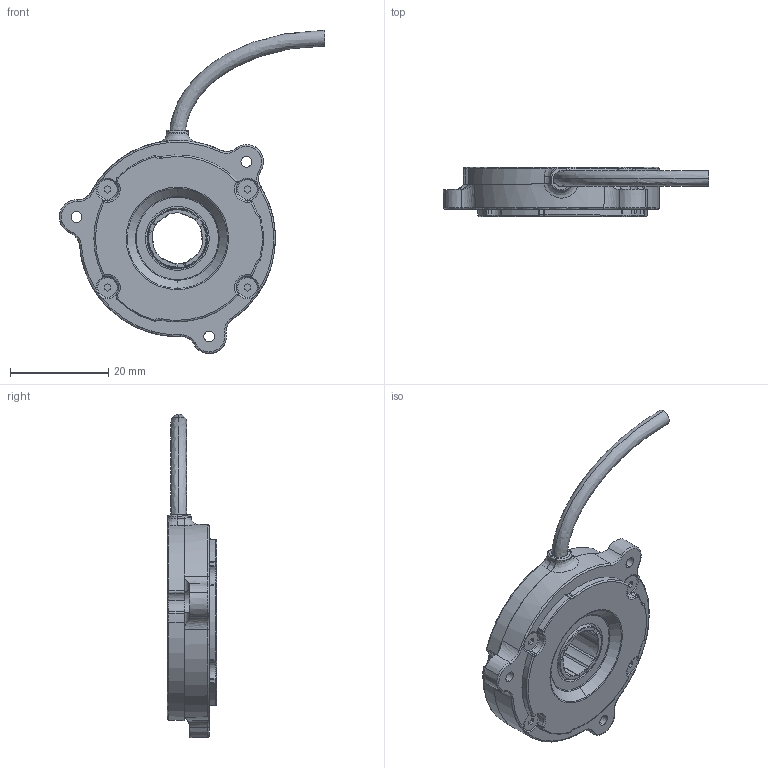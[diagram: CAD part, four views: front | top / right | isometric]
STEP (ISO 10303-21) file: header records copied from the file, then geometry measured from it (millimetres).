
FILE_DESCRIPTION (( 'STEP AP214' ), '1' );
FILE_NAME ('DS-40.STEP', '2025-03-24T08:59:46', ( '' ), ( '' ), 'SwSTEP 2.0', 'SolidWorks 2022', '' );
FILE_SCHEMA (( 'AUTOMOTIVE_DESIGN' ));
Length unit declared in the file: millimetre
Products named in the file (7): DS-40-QR Cable; DS-40-QR Core_Envelope; DS-40; MP-03740; MP-03741_79914   2  05; MP-03739; MP-03620
Assembly tree (9 placements, depth 3):
  DS-40
    DS-40-QR Core_Envelope
      MP-03620
      DS-40-QR Cable
    MP-03741_79914   2  05  x4
    MP-03739
    MP-03740
Bounding box: 54.04 x 10 x 65.85 mm (x, y, z)
Volume: 4900.8 mm3; surface area: 10191.1 mm2
Topology: 20 solids, 21 shells, 1549 faces, 3729 edges, 2263 vertices
Faces by surface type: cone 408, plane 383, torus 286, cylinder 229, bspline 206, sphere 37
Entity records: 47156 total; most frequent: CARTESIAN_POINT 17861, ORIENTED_EDGE 6122, DIRECTION 5628, EDGE_CURVE 3061, AXIS2_PLACEMENT_3D 2368, VERTEX_POINT 1915, CIRCLE 1342, EDGE_LOOP 1280
